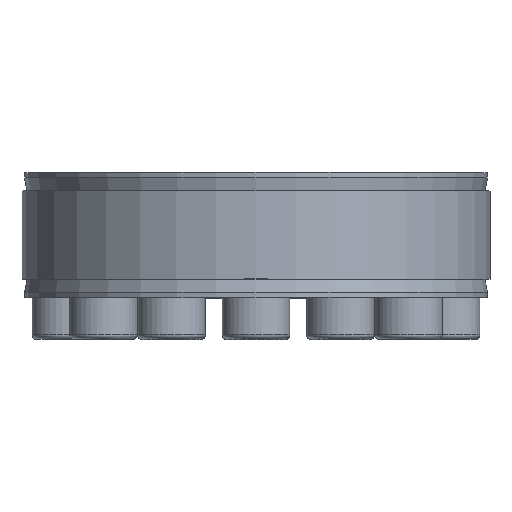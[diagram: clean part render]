
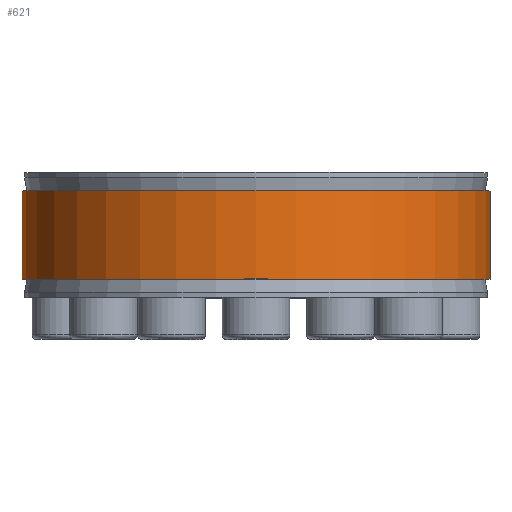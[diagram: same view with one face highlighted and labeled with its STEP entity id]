
A CAD part, top view. The second image highlights one B-rep face of the part: STEP entity #621.
In plain terms, the highlighted cylindrical face has radius 45 mm (diameter 90 mm), a partial arc.
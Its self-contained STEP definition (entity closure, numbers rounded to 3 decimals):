
#621 = ADVANCED_FACE( '', ( #1206 ), #1207, .T. );
#1206 = FACE_OUTER_BOUND( '', #2199, .T. );
#1207 = CYLINDRICAL_SURFACE( '', #2200, 45. );
#2199 = EDGE_LOOP( '', ( #3285, #3286, #3287, #3288 ) );
#2200 = AXIS2_PLACEMENT_3D( '', #3289, #3290, #3291 );
#3285 = ORIENTED_EDGE( '', *, *, #5552, .F. );
#3286 = ORIENTED_EDGE( '', *, *, #5553, .T. );
#3287 = ORIENTED_EDGE( '', *, *, #5554, .T. );
#3288 = ORIENTED_EDGE( '', *, *, #5555, .F. );
#3289 = CARTESIAN_POINT( '', ( 0., -60., 0. ) );
#3290 = DIRECTION( '', ( 0., -1., 0. ) );
#3291 = DIRECTION( '', ( 0., 0., 1. ) );
#5552 = EDGE_CURVE( '', #6209, #6210, #6211, .F. );
#5553 = EDGE_CURVE( '', #6209, #6212, #6213, .T. );
#5554 = EDGE_CURVE( '', #6212, #6214, #6215, .F. );
#5555 = EDGE_CURVE( '', #6210, #6214, #6216, .T. );
#6209 = VERTEX_POINT( '', #7141 );
#6210 = VERTEX_POINT( '', #7142 );
#6211 = LINE( '', #7143, #7144 );
#6212 = VERTEX_POINT( '', #7145 );
#6213 = CIRCLE( '', #7146, 45. );
#6214 = VERTEX_POINT( '', #7147 );
#6215 = LINE( '', #7148, #7149 );
#6216 = CIRCLE( '', #7150, 45. );
#7141 = CARTESIAN_POINT( '', ( 0.75, 8.5, -44.994 ) );
#7142 = CARTESIAN_POINT( '', ( 0.75, -8.5, -44.994 ) );
#7143 = CARTESIAN_POINT( '', ( 0.75, -60., -44.994 ) );
#7144 = VECTOR( '', #8852, 1000. );
#7145 = CARTESIAN_POINT( '', ( -0.75, 8.5, -44.994 ) );
#7146 = AXIS2_PLACEMENT_3D( '', #8853, #8854, #8855 );
#7147 = CARTESIAN_POINT( '', ( -0.75, -8.5, -44.994 ) );
#7148 = CARTESIAN_POINT( '', ( -0.75, -60., -44.994 ) );
#7149 = VECTOR( '', #8856, 1000. );
#7150 = AXIS2_PLACEMENT_3D( '', #8857, #8858, #8859 );
#8852 = DIRECTION( '', ( 0., 1., 0. ) );
#8853 = CARTESIAN_POINT( '', ( 0., 8.5, 0. ) );
#8854 = DIRECTION( '', ( 0., -1., 0. ) );
#8855 = DIRECTION( '', ( 0., 0., -1. ) );
#8856 = DIRECTION( '', ( 0., 1., 0. ) );
#8857 = CARTESIAN_POINT( '', ( 0., -8.5, 0. ) );
#8858 = DIRECTION( '', ( 0., -1., 0. ) );
#8859 = DIRECTION( '', ( 0., 0., -1. ) );
